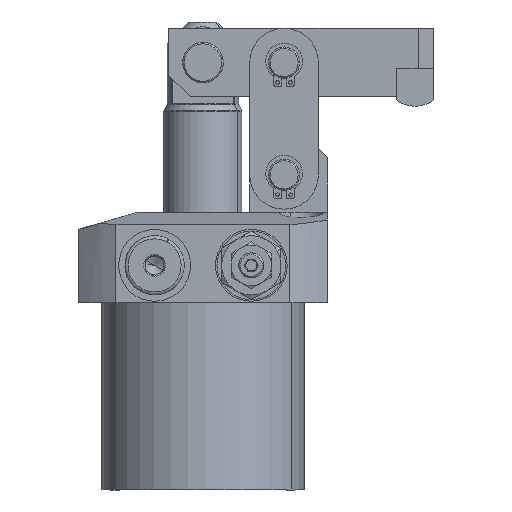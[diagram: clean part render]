
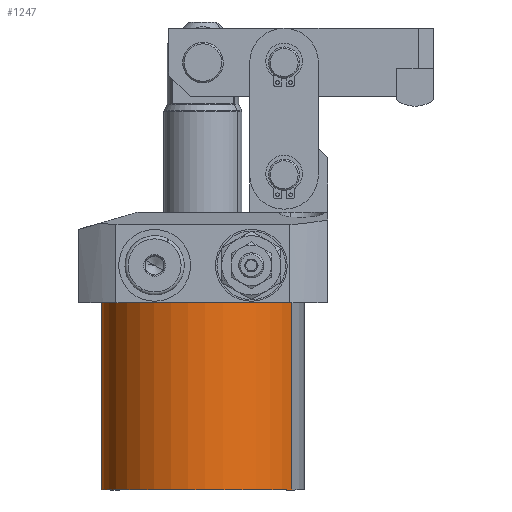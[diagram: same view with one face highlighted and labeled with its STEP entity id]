
A CAD part, left-side view. The second image highlights one B-rep face of the part: STEP entity #1247.
In plain terms, the highlighted cylindrical face has radius 32.5 mm (diameter 65 mm), a partial arc.
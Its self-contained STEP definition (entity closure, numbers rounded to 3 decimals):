
#1186=CARTESIAN_POINT('Vertex',(15.581,28.521,0.)) ;
#1188=CARTESIAN_POINT('Vertex',(-15.581,-28.521,0.)) ;
#1191=CARTESIAN_POINT('Axis2P3D Location',(0.,0.,0.)) ;
#1205=CARTESIAN_POINT('Axis2P3D Location',(0.,0.,44.5)) ;
#1210=CARTESIAN_POINT('Line Origine',(15.581,28.521,30.)) ;
#1214=CARTESIAN_POINT('Vertex',(15.581,28.521,60.)) ;
#1221=CARTESIAN_POINT('Vertex',(-15.581,-28.521,60.)) ;
#1224=CARTESIAN_POINT('Line Origine',(-15.581,-28.521,30.)) ;
#1236=CARTESIAN_POINT('Axis2P3D Location',(0.,0.,60.)) ;
#1192=DIRECTION('Axis2P3D Direction',(0.,0.,-1.)) ;
#1206=DIRECTION('Axis2P3D Direction',(0.,0.,-1.)) ;
#1207=DIRECTION('Axis2P3D XDirection',(-0.479,-0.878,0.)) ;
#1211=DIRECTION('Vector Direction',(0.,0.,-1.)) ;
#1225=DIRECTION('Vector Direction',(0.,0.,-1.)) ;
#1237=DIRECTION('Axis2P3D Direction',(0.,0.,-1.)) ;
#1193=AXIS2_PLACEMENT_3D('Circle Axis2P3D',#1191,#1192,$) ;
#1208=AXIS2_PLACEMENT_3D('Cylinder Axis2P3D',#1205,#1206,#1207) ;
#1238=AXIS2_PLACEMENT_3D('Circle Axis2P3D',#1236,#1237,$) ;
#1242=ORIENTED_EDGE('',*,*,#1195,.F.) ;
#1243=ORIENTED_EDGE('',*,*,#1228,.T.) ;
#1244=ORIENTED_EDGE('',*,*,#1240,.T.) ;
#1245=ORIENTED_EDGE('',*,*,#1216,.F.) ;
#1212=VECTOR('Line Direction',#1211,1.) ;
#1226=VECTOR('Line Direction',#1225,1.) ;
#1247=ADVANCED_FACE('PartBody',(#1246),#1209,.T.) ;
#1194=CIRCLE('generated circle',#1193,32.5) ;
#1239=CIRCLE('generated circle',#1238,32.5) ;
#1209=CYLINDRICAL_SURFACE('generated cylinder',#1208,32.5) ;
#1195=EDGE_CURVE('',#1189,#1187,#1194,.T.) ;
#1216=EDGE_CURVE('',#1187,#1215,#1213,.F.) ;
#1228=EDGE_CURVE('',#1189,#1222,#1227,.F.) ;
#1240=EDGE_CURVE('',#1222,#1215,#1239,.T.) ;
#1241=EDGE_LOOP('',(#1242,#1243,#1244,#1245)) ;
#1246=FACE_OUTER_BOUND('',#1241,.T.) ;
#1213=LINE('Line',#1210,#1212) ;
#1227=LINE('Line',#1224,#1226) ;
#1187=VERTEX_POINT('',#1186) ;
#1189=VERTEX_POINT('',#1188) ;
#1215=VERTEX_POINT('',#1214) ;
#1222=VERTEX_POINT('',#1221) ;
